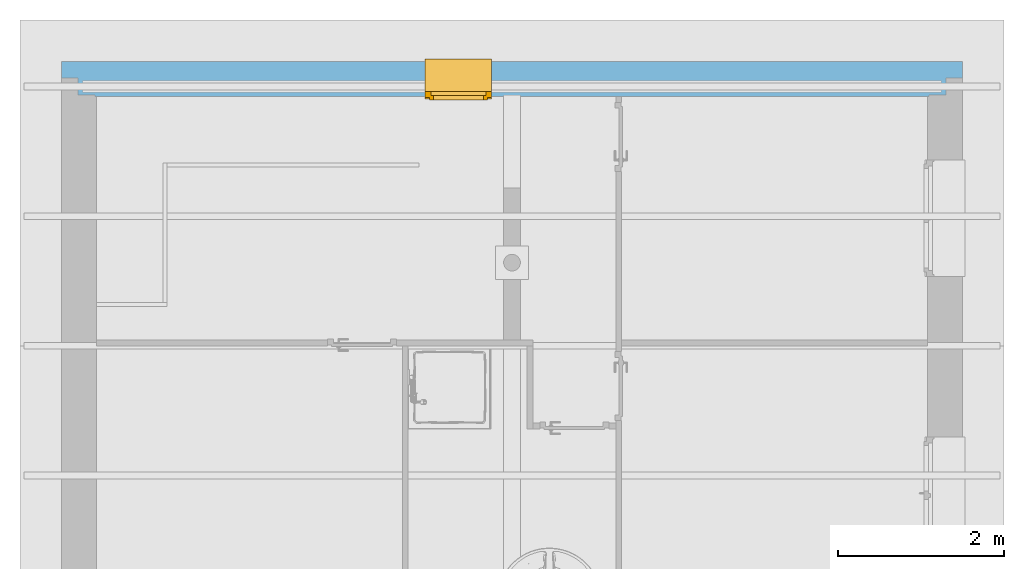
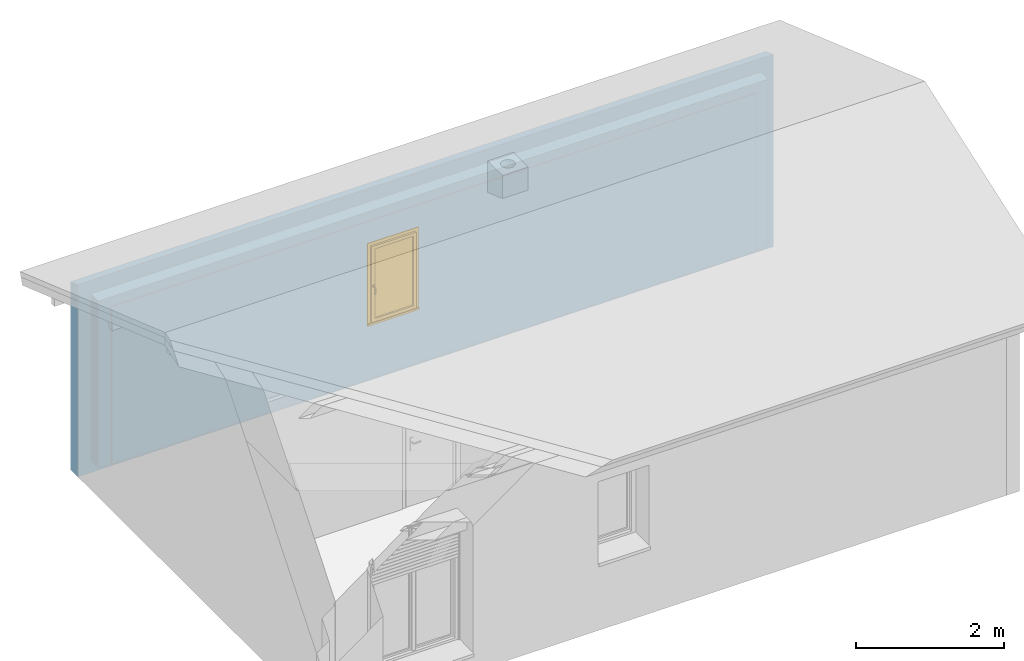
# One storey, part 6 of 7: 1 window, 1 opening, plus 1 element that does not belong to this part.
"""IFC4 building model written with IfcOpenShell, lengths in metres."""

from ifc_helpers import new_model, entity, si_unit, converted_unit, frame, origin, origin_with_axes, place, context, subcontext, project, spatial, polyline, outline, extrude, clip, bounded_halfspace, closed_shell, open_shell, surface_model, source, transform, mapped, material, layer, layer_set, layer_usage, type_object, element, fill, save


model = new_model("IFC4")

# Units and contexts
model_context = context("Model", 3, precision=1e-05, world=origin())
body_context = subcontext(model_context, "Body", "Model", "MODEL_VIEW")
ifc_project = project(units=[si_unit("LENGTHUNIT", "METRE"), si_unit("AREAUNIT", "SQUARE_METRE"), si_unit("VOLUMEUNIT", "CUBIC_METRE"), si_unit("MASSUNIT", "GRAM", prefix="KILO"), converted_unit("PLANEANGLEUNIT", "DEGREE", entity("IfcPlaneAngleMeasure", 0.0174532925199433), si_unit("PLANEANGLEUNIT", "RADIAN"), dimensions=[0, 0, 0, 0, 0, 0, 0])], contexts=[model_context])

# Building, storey
building_placement = place(None, origin())
building = spatial("IfcBuilding", under=ifc_project, at=building_placement, Name="Projet de Construction", CompositionType="ELEMENT")
storey_placement = place(building_placement, frame((0.0, 0.0, 2.8)))
storey = spatial("IfcBuildingStorey", under=building, at=storey_placement, Name="R+1", CompositionType="ELEMENT", Elevation=2.8)

# Wall, opening, window
ifc_material_1 = material()
ifc_layer_1 = layer(ifc_material_1, 0.2)
ifc_material_2 = material()
ifc_layer_2 = layer(ifc_material_2, 0.2)
ifc_material_3 = material()
ifc_layer_3 = layer(ifc_material_3, 0.02)
ifc_layer_set = layer_set([ifc_layer_1, ifc_layer_2, ifc_layer_3])
ifc_layer_usage = layer_usage(ifc_layer_set, "AXIS2", "POSITIVE", 0.0)
wall_placement = place(storey_placement, frame((3.5540625, 8.13979166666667, 0.0), z_axis=(0.0, 0.0, 1.0), x_axis=(-1.0, 0.0, 0.0)))
wall = element("IfcWall", 1, at=wall_placement, inside=storey, material=ifc_layer_usage, context=body_context, shape_type="Clipping", body=[
    clip(clip(clip(clip(extrude(outline(polyline([(-10.84, -0.42), (0.0, -0.42), (0.0, -0.22), (-0.2, -0.22), (-0.2, -0.02), (-0.4, -0.02), (-0.4, 0.0), (-10.44, 0.0), (-10.44, -0.02), (-10.64, -0.02), (-10.64, -0.22), (-10.84, -0.22), (-10.84, -0.42)])), frame((10.84, 0.42, 0.0), z_axis=(0.0, 0.0, 1.0), x_axis=(1.0, 0.0, 0.0)), (0.0, 0.0, 1.0), 3.17000000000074), bounded_halfspace(frame((5.42, 0.354999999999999, 0.2), z_axis=(0.0, 0.0, 1.0), x_axis=(0.0, 1.0, 0.0)), True, origin_with_axes(), polyline([(10.44, 0.4), (10.44, 0.42), (0.4, 0.42), (0.400000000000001, 0.4), (0.2, 0.4), (0.2, 0.2), (10.64, 0.2), (10.64, 0.4), (10.44, 0.4)]))), bounded_halfspace(frame((5.42, 0.0999999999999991, 3.13500000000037), z_axis=(0.0, 0.330350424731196, -0.943858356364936), x_axis=(0.0, -0.943858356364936, -0.330350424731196)), True, origin_with_axes(), polyline([(0.0, 0.199999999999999), (0.0, -9.09494701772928e-16), (10.84, -9.09494701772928e-16), (10.84, 0.199999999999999), (0.0, 0.199999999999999)]))), bounded_halfspace(frame((5.42, 0.3, 2.95000000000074), z_axis=(0.0, 0.0, -1.0), x_axis=(1.0, 0.0, 0.0)), True, origin_with_axes(), polyline([(0.2, 0.2), (10.64, 0.2), (10.64, 0.4), (0.2, 0.4), (0.2, 0.2)]))), bounded_halfspace(frame((5.42, 0.41, 2.8), z_axis=(0.0, 0.0, -1.0), x_axis=(1.0, 0.0, 0.0)), True, origin_with_axes(), polyline([(0.4, 0.4), (10.44, 0.4), (10.44, 0.42), (0.4, 0.42), (0.4, 0.4)]))),
])
opening_placement = place(wall_placement, frame((6.46402015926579, 0.2, 1.1), z_axis=(0.0, -1.0, 0.0), x_axis=(0.0, 0.0, 1.0)))
opening = element("IfcOpeningStandardCase", 2, at=opening_placement, cuts=wall, Name="Baie de fenêtre", PredefinedType="OPENING", context=body_context, shape_type="SweptSolid", body=[
    extrude(outline(polyline([(0.0, 0.8), (1.35, 0.8), (1.35, 0.0), (0.0, 0.0), (0.0, 0.8)])), origin_with_axes(), (0.0, 0.0, 1.0), 0.2),
    extrude(outline(polyline([(0.0, 0.8), (1.35, 0.8), (1.35, 0.0), (0.0, 0.0), (0.0, 0.8)])), frame((0.0, 0.0, -0.2), z_axis=(0.0, 0.0, 1.0), x_axis=(1.0, 0.0, 0.0)), (0.0, 0.0, 1.0), 0.2),
    extrude(outline(polyline([(0.0, 0.8), (1.35, 0.8), (1.35, 0.0), (0.0, 0.0), (0.0, 0.8)])), frame((0.0, 0.0, -0.22), z_axis=(0.0, 0.0, 1.0), x_axis=(1.0, 0.0, 0.0)), (0.0, 0.0, 1.0), 0.02),
])
ifc_material_4 = material()
window_type = type_object("IfcWindowType", Name="1 vantail blanc", ParameterTakesPrecedence=False, PartitioningType="SINGLE_PANEL", PredefinedType="WINDOW")
shared_shape = source(origin_with_axes(), body_context, "Body", "SurfaceModel", [
    surface_model("IfcShellBasedSurfaceModel", [(0.8, -0.37, 0.0), (0.8, -0.37, -0.03), (0.8, -0.39, -0.03), (0.8, -0.39, 0.02), (0.8, 0.0, 0.03), (0.8, 0.0, 0.0), (0.0, 0.0, 0.0), (0.0, 0.0, 0.03), (0.0, -0.39, 0.02), (0.0, -0.39, -0.03), (0.0, -0.37, -0.03), (0.0, -0.37, 0.0)], [closed_shell([[[0, 1, 2, 3, 4, 5]], [[6, 7, 8, 9, 10, 11]], [[5, 6, 11, 0]], [[4, 7, 6, 5]], [[3, 8, 7, 4]], [[2, 9, 8, 3]], [[1, 10, 9, 2]], [[0, 11, 10, 1]]], orient=[[False], [False], [False], [False], [False], [False], [False], [False]])]),
    surface_model("IfcShellBasedSurfaceModel", [(0.8, 0.09, 0.0), (0.8, 0.04, 0.0), (0.8, 0.04, 0.03), (0.8, 0.09, 0.03), (0.0, 0.04, 0.0), (0.0, 0.09, 0.0), (0.0, 0.09, 0.03), (0.0, 0.04, 0.03)], [closed_shell([[[0, 1, 2, 3]], [[4, 5, 6, 7]], [[1, 0, 5, 4]], [[2, 1, 4, 7]], [[3, 2, 7, 6]], [[0, 3, 6, 5]]], orient=[[False], [False], [False], [False], [False], [False]])]),
    surface_model("IfcShellBasedSurfaceModel", [(0.8, 0.07, 1.35), (0.73, 0.07, 1.35), (0.73, 0.07, 0.0), (0.8, 0.07, 0.0), (0.8, 0.0, 0.0), (0.73, 0.0, 0.0), (0.73, 0.0, 1.35), (0.8, 0.0, 1.35)], [closed_shell([[[0, 1, 2, 3]], [[4, 5, 6, 7]], [[3, 4, 7, 0]], [[2, 5, 4, 3]], [[1, 6, 5, 2]], [[0, 7, 6, 1]]], orient=[[False], [False], [False], [False], [False], [False]])]),
    surface_model("IfcShellBasedSurfaceModel", [(0.07, 0.07, 1.35), (0.0, 0.07, 1.35), (0.0, 0.07, 0.0), (0.07, 0.07, 0.0), (0.07, 0.0, 0.0), (0.0, 0.0, 0.0), (0.0, 0.0, 1.35), (0.07, 0.0, 1.35)], [closed_shell([[[0, 1, 2, 3]], [[4, 5, 6, 7]], [[3, 4, 7, 0]], [[2, 5, 4, 3]], [[1, 6, 5, 2]], [[0, 7, 6, 1]]], orient=[[False], [False], [False], [False], [False], [False]])]),
    surface_model("IfcShellBasedSurfaceModel", [(0.73, 0.07, 0.07), (0.07, 0.07, 0.07), (0.07, 0.07, 0.0), (0.73, 0.07, 0.0), (0.73, 0.0, 0.0), (0.07, 0.0, 0.0), (0.07, 0.0, 0.07), (0.73, 0.0, 0.07)], [closed_shell([[[0, 1, 2, 3]], [[4, 5, 6, 7]], [[3, 4, 7, 0]], [[2, 5, 4, 3]], [[1, 6, 5, 2]], [[0, 7, 6, 1]]], orient=[[False], [False], [False], [False], [False], [False]])]),
    surface_model("IfcShellBasedSurfaceModel", [(0.73, 0.07, 1.35), (0.07, 0.07, 1.35), (0.07, 0.07, 1.28), (0.73, 0.07, 1.28), (0.73, 0.0, 1.28), (0.07, 0.0, 1.28), (0.07, 0.0, 1.35), (0.73, 0.0, 1.35)], [closed_shell([[[0, 1, 2, 3]], [[4, 5, 6, 7]], [[3, 4, 7, 0]], [[2, 5, 4, 3]], [[1, 6, 5, 2]], [[0, 7, 6, 1]]], orient=[[False], [False], [False], [False], [False], [False]])]),
    surface_model("IfcShellBasedSurfaceModel", [(0.75, 0.1, 1.3), (0.7, 0.1, 1.3), (0.7, 0.1, 0.05), (0.75, 0.1, 0.05), (0.75, 0.05, 0.05), (0.7, 0.05, 0.05), (0.7, 0.05, 1.3), (0.75, 0.05, 1.3)], [closed_shell([[[0, 1, 2, 3]], [[4, 5, 6, 7]], [[3, 4, 7, 0]], [[2, 5, 4, 3]], [[1, 6, 5, 2]], [[0, 7, 6, 1]]], orient=[[False], [False], [False], [False], [False], [False]])]),
    surface_model("IfcShellBasedSurfaceModel", [(0.1, 0.1, 1.3), (0.05, 0.1, 1.3), (0.05, 0.1, 0.05), (0.1, 0.1, 0.05), (0.1, 0.05, 0.05), (0.05, 0.05, 0.05), (0.05, 0.05, 1.3), (0.1, 0.05, 1.3)], [closed_shell([[[0, 1, 2, 3]], [[4, 5, 6, 7]], [[3, 4, 7, 0]], [[2, 5, 4, 3]], [[1, 6, 5, 2]], [[0, 7, 6, 1]]], orient=[[False], [False], [False], [False], [False], [False]])]),
    surface_model("IfcShellBasedSurfaceModel", [(0.7, 0.1, 0.1), (0.1, 0.1, 0.1), (0.1, 0.1, 0.05), (0.7, 0.1, 0.05), (0.7, 0.05, 0.05), (0.1, 0.05, 0.05), (0.1, 0.05, 0.1), (0.7, 0.05, 0.1)], [closed_shell([[[0, 1, 2, 3]], [[4, 5, 6, 7]], [[3, 4, 7, 0]], [[2, 5, 4, 3]], [[1, 6, 5, 2]], [[0, 7, 6, 1]]], orient=[[False], [False], [False], [False], [False], [False]])]),
    surface_model("IfcShellBasedSurfaceModel", [(0.7, 0.1, 1.3), (0.1, 0.1, 1.3), (0.1, 0.1, 1.25), (0.7, 0.1, 1.25), (0.7, 0.05, 1.25), (0.1, 0.05, 1.25), (0.1, 0.05, 1.3), (0.7, 0.05, 1.3)], [closed_shell([[[0, 1, 2, 3]], [[4, 5, 6, 7]], [[3, 4, 7, 0]], [[2, 5, 4, 3]], [[1, 6, 5, 2]], [[0, 7, 6, 1]]], orient=[[False], [False], [False], [False], [False], [False]])]),
    surface_model("IfcShellBasedSurfaceModel", [(0.7375, 0.1, 0.67), (0.7375, 0.1, 0.63), (0.7125, 0.1, 0.63), (0.7125, 0.1, 0.67), (0.7375, 0.11, 0.63), (0.7375, 0.11, 0.67), (0.7125, 0.11, 0.67), (0.7125, 0.11, 0.63)], [closed_shell([[[0, 1, 2, 3]], [[4, 5, 6, 7]], [[1, 0, 5, 4]], [[2, 1, 4, 7]], [[3, 2, 7, 6]], [[0, 3, 6, 5]]], orient=[[False], [False], [False], [False], [False], [False]])]),
    surface_model("IfcShellBasedSurfaceModel", [(0.715, 0.11, 0.65), (0.716339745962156, 0.11, 0.655), (0.72, 0.11, 0.658660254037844), (0.725, 0.11, 0.66), (0.73, 0.11, 0.658660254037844), (0.733660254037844, 0.11, 0.655), (0.735, 0.11, 0.65), (0.733660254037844, 0.11, 0.645), (0.73, 0.11, 0.641339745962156), (0.725, 0.11, 0.64), (0.72, 0.11, 0.641339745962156), (0.716339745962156, 0.11, 0.645), (0.715, 0.15, 0.65), (0.716339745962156, 0.155, 0.655), (0.72, 0.158660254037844, 0.658660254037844), (0.725, 0.16, 0.66), (0.73, 0.158660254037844, 0.658660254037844), (0.733660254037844, 0.155, 0.655), (0.735, 0.15, 0.65), (0.733660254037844, 0.145, 0.645), (0.73, 0.141339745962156, 0.641339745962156), (0.725, 0.14, 0.64), (0.72, 0.141339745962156, 0.641339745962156), (0.716339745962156, 0.145, 0.645), (0.715, 0.15, 0.535), (0.716339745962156, 0.145, 0.535), (0.72, 0.141339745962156, 0.535), (0.725, 0.14, 0.535), (0.73, 0.141339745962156, 0.535), (0.733660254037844, 0.145, 0.535), (0.735, 0.15, 0.535), (0.733660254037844, 0.155, 0.535), (0.73, 0.158660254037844, 0.535), (0.725, 0.16, 0.535), (0.72, 0.158660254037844, 0.535), (0.716339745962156, 0.155, 0.535)], [closed_shell([[[0, 1, 2, 3, 4, 5, 6, 7, 8, 9, 10, 11]], [[0, 12, 13, 1]], [[1, 13, 14, 2]], [[2, 14, 15, 3]], [[3, 15, 16, 4]], [[4, 16, 17, 5]], [[5, 17, 18, 6]], [[6, 18, 19, 7]], [[7, 19, 20, 8]], [[8, 20, 21, 9]], [[9, 21, 22, 10]], [[10, 22, 23, 11]], [[11, 23, 12, 0]], [[24, 25, 26, 27, 28, 29, 30, 31, 32, 33, 34, 35]], [[12, 24, 35, 13]], [[13, 35, 34, 14]], [[14, 34, 33, 15]], [[15, 33, 32, 16]], [[16, 32, 31, 17]], [[17, 31, 30, 18]], [[18, 30, 29, 19]], [[19, 29, 28, 20]], [[20, 28, 27, 21]], [[21, 27, 26, 22]], [[22, 26, 25, 23]], [[23, 25, 24, 12]]], orient=[[False], [False], [False], [False], [False], [False], [False], [False], [False], [False], [False], [False], [False], [False], [False], [False], [False], [False], [False], [False], [False], [False], [False], [False], [False], [False]])]),
    surface_model("IfcShellBasedSurfaceModel", [(0.7, 0.075, 0.1), (0.7, 0.075, 1.25), (0.1, 0.075, 1.25), (0.1, 0.075, 0.1)], [open_shell([[[0, 1, 2, 3]]], orient=[[False]])]),
])
window_placement = place(opening_placement, frame((0.0, 0.8, -0.16), z_axis=(1.0, 0.0, 0.0), x_axis=(0.0, -1.0, 0.0)))
window = element("IfcWindow", 3, at=window_placement, inside=storey, type_object=window_type, material=ifc_material_4, Name="1 vantail blanc", OverallHeight=1.35, OverallWidth=0.8, context=body_context, shape_type="MappedRepresentation", body=[
    mapped(shared_shape, transform((0.0, 0.0, 0.0), x_axis=(1.0, 0.0, 0.0), y_axis=(0.0, 1.0, 0.0), z_axis=(0.0, 0.0, 1.0), scale=1.0)),
])
fill(opening, window)

save(model, "model.ifc")
